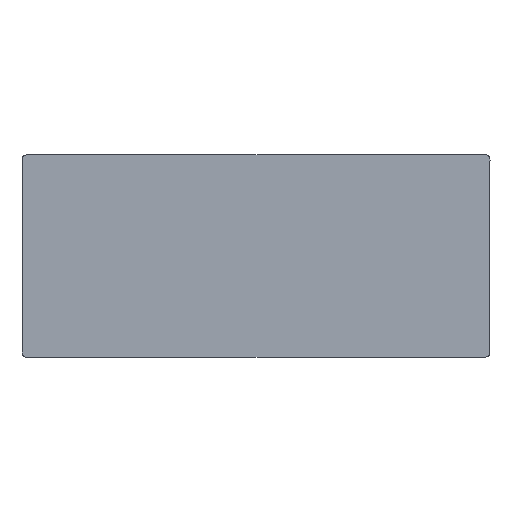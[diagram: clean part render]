
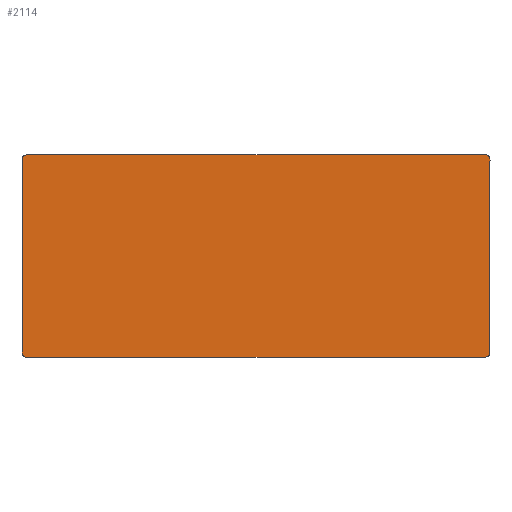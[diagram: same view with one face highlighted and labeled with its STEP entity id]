
A CAD part, front view. The second image highlights one B-rep face of the part: STEP entity #2114.
In plain terms, the highlighted planar face has unit normal (0, -1, 0).
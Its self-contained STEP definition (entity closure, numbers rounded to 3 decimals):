
#1 = DIRECTION ( 'NONE',  ( 0., 0., -1. ) ) ;
#67 = ORIENTED_EDGE ( 'NONE', *, *, #203, .T. ) ;
#71 = CARTESIAN_POINT ( 'NONE',  ( 21.006, 0., -8.6 ) ) ;
#137 = CARTESIAN_POINT ( 'NONE',  ( -21.006, 0., 8.6 ) ) ;
#154 = CARTESIAN_POINT ( 'NONE',  ( -20.84, 0., -9.1 ) ) ;
#196 = FACE_OUTER_BOUND ( 'NONE', #1553, .T. ) ;
#203 = EDGE_CURVE ( 'NONE', #248, #874, #1211, .T. ) ;
#226 = CARTESIAN_POINT ( 'NONE',  ( 20.506, 0., 9.1 ) ) ;
#248 = VERTEX_POINT ( 'NONE', #2294 ) ;
#279 = VERTEX_POINT ( 'NONE', #137 ) ;
#315 = CARTESIAN_POINT ( 'NONE',  ( 20.506, 0., -9.1 ) ) ;
#366 = CARTESIAN_POINT ( 'NONE',  ( -21.006, 0., -8.933 ) ) ;
#411 = EDGE_CURVE ( 'NONE', #919, #457, #1975, .T. ) ;
#414 = EDGE_CURVE ( 'NONE', #2774, #279, #693, .T. ) ;
#457 = VERTEX_POINT ( 'NONE', #539 ) ;
#464 = ORIENTED_EDGE ( 'NONE', *, *, #620, .F. ) ;
#481 = CARTESIAN_POINT ( 'NONE',  ( 20.84, 0., -9.1 ) ) ;
#539 = CARTESIAN_POINT ( 'NONE',  ( 21.006, 0., -8.6 ) ) ;
#580 = CARTESIAN_POINT ( 'NONE',  ( -20.506, 0., -9.1 ) ) ;
#590 = CARTESIAN_POINT ( 'NONE',  ( -20.506, 0., -9.1 ) ) ;
#620 = EDGE_CURVE ( 'NONE', #248, #457, #2553, .T. ) ;
#693 = B_SPLINE_CURVE_WITH_KNOTS ( 'NONE', 3,
 ( #1363, #2207, #1588, #1132 ),
 .UNSPECIFIED., .F., .F.,
 ( 4, 4 ),
 ( 0., 1. ),
 .UNSPECIFIED. ) ;
#820 = DIRECTION ( 'NONE',  ( 1., 0., 0. ) ) ;
#838 = VECTOR ( 'NONE', #820, 1000. ) ;
#874 = VERTEX_POINT ( 'NONE', #226 ) ;
#882 = LINE ( 'NONE', #1530, #1330 ) ;
#894 = LINE ( 'NONE', #1757, #977 ) ;
#913 = EDGE_CURVE ( 'NONE', #1810, #279, #894, .T. ) ;
#919 = VERTEX_POINT ( 'NONE', #1180 ) ;
#932 = CARTESIAN_POINT ( 'NONE',  ( -20.506, 0., 9.1 ) ) ;
#977 = VECTOR ( 'NONE', #1638, 1000. ) ;
#1025 = DIRECTION ( 'NONE',  ( 0., -1., 0. ) ) ;
#1030 = EDGE_CURVE ( 'NONE', #2774, #874, #1823, .T. ) ;
#1052 = CARTESIAN_POINT ( 'NONE',  ( 0., 0., 0. ) ) ;
#1065 = PLANE ( 'NONE',  #1469 ) ;
#1132 = CARTESIAN_POINT ( 'NONE',  ( -21.006, 0., 8.6 ) ) ;
#1137 = CARTESIAN_POINT ( 'NONE',  ( 20.506, 0., 9.1 ) ) ;
#1146 = DIRECTION ( 'NONE',  ( -1., 0., 0. ) ) ;
#1180 = CARTESIAN_POINT ( 'NONE',  ( 20.506, 0., -9.1 ) ) ;
#1193 = ORIENTED_EDGE ( 'NONE', *, *, #913, .F. ) ;
#1211 = B_SPLINE_CURVE_WITH_KNOTS ( 'NONE', 3,
 ( #2444, #1625, #2493, #1137 ),
 .UNSPECIFIED., .F., .F.,
 ( 4, 4 ),
 ( 0., 1. ),
 .UNSPECIFIED. ) ;
#1235 = CARTESIAN_POINT ( 'NONE',  ( -21.006, 0., -8.6 ) ) ;
#1261 = CARTESIAN_POINT ( 'NONE',  ( 21.006, 0., -9.1 ) ) ;
#1330 = VECTOR ( 'NONE', #1146, 1000. ) ;
#1363 = CARTESIAN_POINT ( 'NONE',  ( -20.506, 0., 9.1 ) ) ;
#1455 = B_SPLINE_CURVE_WITH_KNOTS ( 'NONE', 3,
 ( #1235, #366, #154, #580 ),
 .UNSPECIFIED., .F., .F.,
 ( 4, 4 ),
 ( 0., 1. ),
 .UNSPECIFIED. ) ;
#1469 = AXIS2_PLACEMENT_3D ( 'NONE', #1052, #1025, #1 ) ;
#1480 = VERTEX_POINT ( 'NONE', #590 ) ;
#1530 = CARTESIAN_POINT ( 'NONE',  ( 21.006, 0., -9.1 ) ) ;
#1553 = EDGE_LOOP ( 'NONE', ( #1193, #2069, #2056, #2551, #464, #67, #2562, #1584 ) ) ;
#1584 = ORIENTED_EDGE ( 'NONE', *, *, #414, .T. ) ;
#1588 = CARTESIAN_POINT ( 'NONE',  ( -21.006, 0., 8.933 ) ) ;
#1605 = CARTESIAN_POINT ( 'NONE',  ( 21.006, 0., -8.933 ) ) ;
#1614 = CARTESIAN_POINT ( 'NONE',  ( 21.006, 0., 9.1 ) ) ;
#1625 = CARTESIAN_POINT ( 'NONE',  ( 21.006, 0., 8.933 ) ) ;
#1638 = DIRECTION ( 'NONE',  ( 0., 0., 1. ) ) ;
#1757 = CARTESIAN_POINT ( 'NONE',  ( -21.006, 0., -9.1 ) ) ;
#1810 = VERTEX_POINT ( 'NONE', #2454 ) ;
#1823 = LINE ( 'NONE', #1614, #838 ) ;
#1834 = EDGE_CURVE ( 'NONE', #919, #1480, #882, .T. ) ;
#1921 = VECTOR ( 'NONE', #2325, 1000. ) ;
#1975 = B_SPLINE_CURVE_WITH_KNOTS ( 'NONE', 3,
 ( #315, #481, #1605, #71 ),
 .UNSPECIFIED., .F., .F.,
 ( 4, 4 ),
 ( 0., 1. ),
 .UNSPECIFIED. ) ;
#2056 = ORIENTED_EDGE ( 'NONE', *, *, #1834, .F. ) ;
#2069 = ORIENTED_EDGE ( 'NONE', *, *, #2151, .T. ) ;
#2114 = ADVANCED_FACE ( 'NONE', ( #196 ), #1065, .T. ) ;
#2151 = EDGE_CURVE ( 'NONE', #1810, #1480, #1455, .T. ) ;
#2207 = CARTESIAN_POINT ( 'NONE',  ( -20.84, 0., 9.1 ) ) ;
#2294 = CARTESIAN_POINT ( 'NONE',  ( 21.006, 0., 8.6 ) ) ;
#2325 = DIRECTION ( 'NONE',  ( 0., 0., -1. ) ) ;
#2444 = CARTESIAN_POINT ( 'NONE',  ( 21.006, 0., 8.6 ) ) ;
#2454 = CARTESIAN_POINT ( 'NONE',  ( -21.006, 0., -8.6 ) ) ;
#2493 = CARTESIAN_POINT ( 'NONE',  ( 20.84, 0., 9.1 ) ) ;
#2551 = ORIENTED_EDGE ( 'NONE', *, *, #411, .T. ) ;
#2553 = LINE ( 'NONE', #1261, #1921 ) ;
#2562 = ORIENTED_EDGE ( 'NONE', *, *, #1030, .F. ) ;
#2774 = VERTEX_POINT ( 'NONE', #932 ) ;
